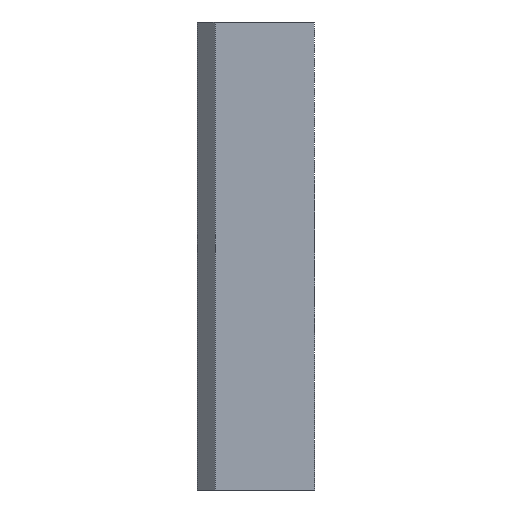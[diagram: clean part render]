
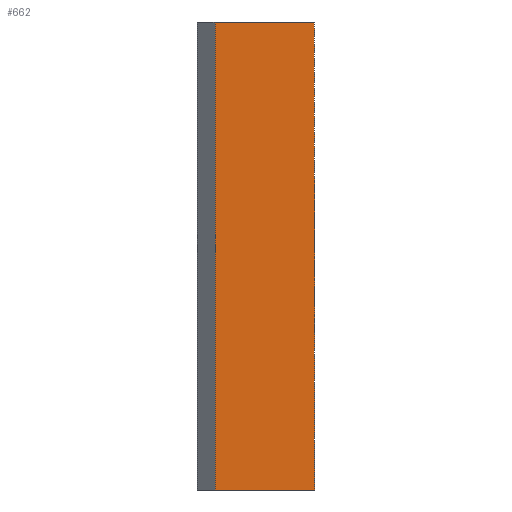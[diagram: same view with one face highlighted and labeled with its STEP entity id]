
A CAD part, front view. The second image highlights one B-rep face of the part: STEP entity #662.
In plain terms, the highlighted planar face has unit normal (0, -1, 0).
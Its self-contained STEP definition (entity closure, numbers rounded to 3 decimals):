
#286=CARTESIAN_POINT('Vertex',(20.,0.,-40.)) ;
#289=CARTESIAN_POINT('Line Origine',(11.5,0.,-40.)) ;
#293=CARTESIAN_POINT('Vertex',(3.,0.,-40.)) ;
#316=CARTESIAN_POINT('Line Origine',(3.,0.,0.)) ;
#320=CARTESIAN_POINT('Vertex',(3.,0.,40.)) ;
#340=CARTESIAN_POINT('Line Origine',(11.5,0.,40.)) ;
#344=CARTESIAN_POINT('Vertex',(20.,0.,40.)) ;
#571=CARTESIAN_POINT('Line Origine',(20.,0.,0.)) ;
#651=CARTESIAN_POINT('Axis2P3D Location',(3.,0.,40.)) ;
#290=DIRECTION('Vector Direction',(1.,0.,0.)) ;
#317=DIRECTION('Vector Direction',(0.,0.,-1.)) ;
#341=DIRECTION('Vector Direction',(1.,0.,0.)) ;
#572=DIRECTION('Vector Direction',(0.,0.,-1.)) ;
#652=DIRECTION('Axis2P3D Direction',(0.,1.,0.)) ;
#653=DIRECTION('Axis2P3D XDirection',(0.,-0.,1.)) ;
#654=AXIS2_PLACEMENT_3D('Plane Axis2P3D',#651,#652,#653) ;
#657=ORIENTED_EDGE('',*,*,#295,.T.) ;
#658=ORIENTED_EDGE('',*,*,#575,.F.) ;
#659=ORIENTED_EDGE('',*,*,#346,.F.) ;
#660=ORIENTED_EDGE('',*,*,#322,.T.) ;
#291=VECTOR('Line Direction',#290,1.) ;
#318=VECTOR('Line Direction',#317,1.) ;
#342=VECTOR('Line Direction',#341,1.) ;
#573=VECTOR('Line Direction',#572,1.) ;
#662=ADVANCED_FACE('A915-80X315',(#661),#655,.F.) ;
#295=EDGE_CURVE('',#294,#287,#292,.T.) ;
#322=EDGE_CURVE('',#321,#294,#319,.T.) ;
#346=EDGE_CURVE('',#321,#345,#343,.T.) ;
#575=EDGE_CURVE('',#345,#287,#574,.T.) ;
#656=EDGE_LOOP('',(#657,#658,#659,#660)) ;
#661=FACE_OUTER_BOUND('',#656,.T.) ;
#292=LINE('Line',#289,#291) ;
#319=LINE('Line',#316,#318) ;
#343=LINE('Line',#340,#342) ;
#574=LINE('Line',#571,#573) ;
#655=PLANE('Plane',#654) ;
#287=VERTEX_POINT('',#286) ;
#294=VERTEX_POINT('',#293) ;
#321=VERTEX_POINT('',#320) ;
#345=VERTEX_POINT('',#344) ;
